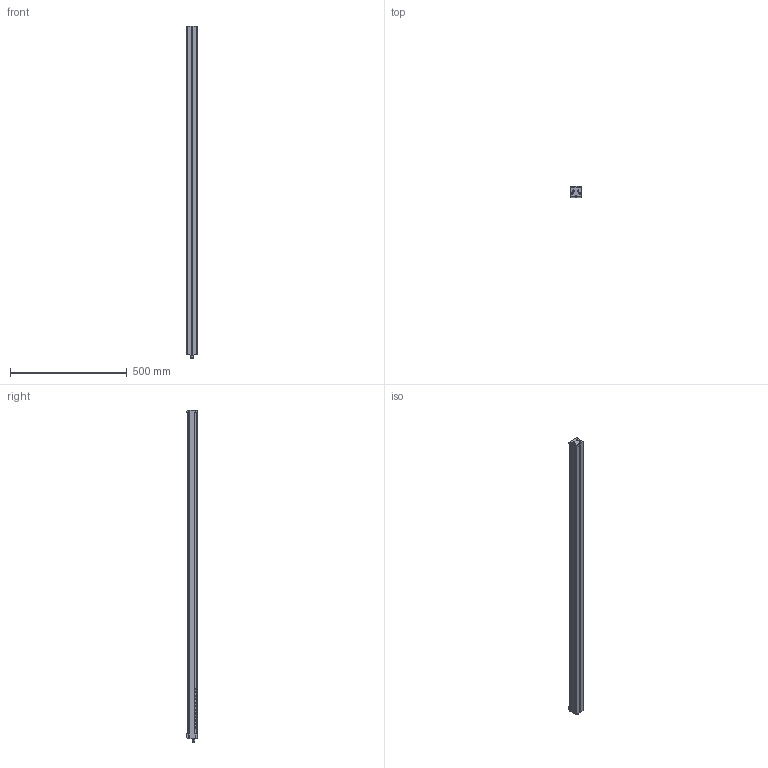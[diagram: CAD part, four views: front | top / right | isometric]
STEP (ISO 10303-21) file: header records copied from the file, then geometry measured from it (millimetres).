
FILE_DESCRIPTION (( 'STEP AP214' ), '1' );
FILE_NAME ('EBAR-HPS-1375-xxx-UN_CLIENT.STEP', '2025-11-18T13:02:24', ( '' ), ( '' ), 'SwSTEP 2.0', 'SolidWorks 2025', '' );
FILE_SCHEMA (( 'AUTOMOTIVE_DESIGN' ));
Length unit declared in the file: millimetre
Products named in the file (3): EBAR-HPS-xxx-xxx-xx_CLIENT - T-Power_1375; M4 T-Slot Nut; EBAR-HPS-1375-xxx-UN_CLIENT
Assembly tree (37 placements, depth 2):
  EBAR-HPS-1375-xxx-UN_CLIENT
    EBAR-HPS-xxx-xxx-xx_CLIENT - T-Power_1375
    M4 T-Slot Nut  x36
Bounding box: 47.63 x 45 x 1420.06 mm (x, y, z)
Volume: 2394452.2 mm3; surface area: 347154.7 mm2
Topology: 37 solids, 37 shells, 1424 faces, 3688 edges, 2428 vertices
Faces by surface type: plane 799, cylinder 371, bspline 140, torus 62, sphere 40, cone 12
Entity records: 29649 total; most frequent: CARTESIAN_POINT 10335, ORIENTED_EDGE 4138, DIRECTION 3640, EDGE_CURVE 2069, VERTEX_POINT 1343, AXIS2_PLACEMENT_3D 1252, VECTOR 1136, LINE 1136
